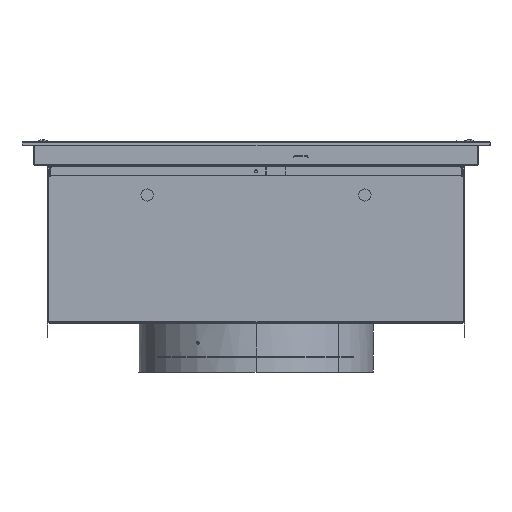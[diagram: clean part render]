
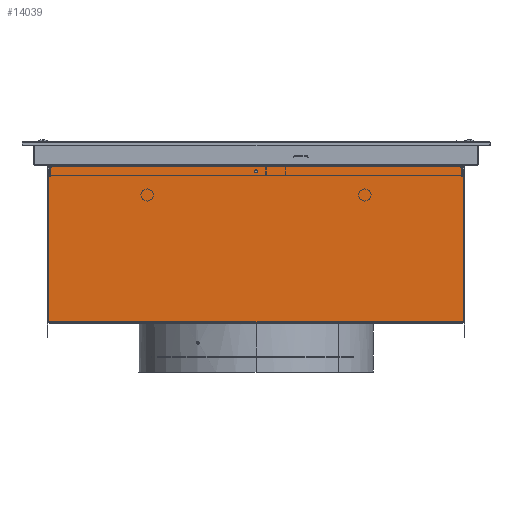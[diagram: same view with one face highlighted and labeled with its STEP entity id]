
A CAD part, left-side view. The second image highlights one B-rep face of the part: STEP entity #14039.
In plain terms, the highlighted planar face has unit normal (-1, 0, 0).
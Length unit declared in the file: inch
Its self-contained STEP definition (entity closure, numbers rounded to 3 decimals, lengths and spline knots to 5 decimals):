
#884 = ORIENTED_EDGE ( 'NONE', *, *, #9509, .F. ) ;
#1162 = VERTEX_POINT ( 'NONE', #25410 ) ;
#2142 = AXIS2_PLACEMENT_3D ( 'NONE', #48275, #64091, #14358 ) ;
#2422 = VERTEX_POINT ( 'NONE', #8867 ) ;
#3054 = DIRECTION ( 'NONE',  ( 0., 0.707, -0.707 ) ) ;
#3275 = AXIS2_PLACEMENT_3D ( 'NONE', #55266, #29981, #4939 ) ;
#3447 = DIRECTION ( 'NONE',  ( 0., -1., 0. ) ) ;
#4310 = ORIENTED_EDGE ( 'NONE', *, *, #59417, .T. ) ;
#4939 = DIRECTION ( 'NONE',  ( 0., 0., -1. ) ) ;
#5201 = LINE ( 'NONE', #30072, #12963 ) ;
#5771 = DIRECTION ( 'NONE',  ( 0., 0., -1. ) ) ;
#6034 = CARTESIAN_POINT ( 'NONE',  ( -16.56225, 0., -1.5046 ) ) ;
#6153 = VECTOR ( 'NONE', #3054, 39.37008 ) ;
#6363 = DIRECTION ( 'NONE',  ( 1., 0., 0. ) ) ;
#8368 = LINE ( 'NONE', #24201, #45682 ) ;
#8867 = CARTESIAN_POINT ( 'NONE',  ( -16.56225, 0.075, -1.5046 ) ) ;
#9509 = EDGE_CURVE ( 'NONE', #30579, #40540, #58033, .T. ) ;
#10127 = DIRECTION ( 'NONE',  ( 0., -1., 0. ) ) ;
#10158 = CARTESIAN_POINT ( 'NONE',  ( -16.56225, -10.52225, -1.45921 ) ) ;
#10202 = LINE ( 'NONE', #10528, #31449 ) ;
#10528 = CARTESIAN_POINT ( 'NONE',  ( -16.56225, 0.075, -1.5796 ) ) ;
#10697 = ORIENTED_EDGE ( 'NONE', *, *, #29318, .T. ) ;
#11109 = CARTESIAN_POINT ( 'NONE',  ( -16.56225, -10.52225, -9.137 ) ) ;
#11894 = VERTEX_POINT ( 'NONE', #21999 ) ;
#12147 = CARTESIAN_POINT ( 'NONE',  ( -16.56225, -0.075, -1.5046 ) ) ;
#12273 = ORIENTED_EDGE ( 'NONE', *, *, #52504, .T. ) ;
#12963 = VECTOR ( 'NONE', #10127, 39.37008 ) ;
#13168 = EDGE_CURVE ( 'NONE', #11894, #30579, #60365, .T. ) ;
#14039 = ADVANCED_FACE ( 'Face1', ( #28247, #63101 ), #33501, .F. ) ;
#14239 = EDGE_CURVE ( 'NONE', #47511, #20183, #63075, .T. ) ;
#14358 = DIRECTION ( 'NONE',  ( 0., 0., -1. ) ) ;
#14421 = CARTESIAN_POINT ( 'NONE',  ( -16.56225, 10.27664, -1.20739 ) ) ;
#15156 = ORIENTED_EDGE ( 'NONE', *, *, #14239, .T. ) ;
#15244 = CARTESIAN_POINT ( 'NONE',  ( -16.56225, 0.075, -1.5796 ) ) ;
#16103 = EDGE_CURVE ( 'NONE', #53984, #1162, #47270, .T. ) ;
#16481 = CARTESIAN_POINT ( 'NONE',  ( -16.56225, -0.075, -1.5796 ) ) ;
#16700 = ORIENTED_EDGE ( 'NONE', *, *, #45214, .F. ) ;
#17592 = DIRECTION ( 'NONE',  ( -1., 0., 0. ) ) ;
#18923 = CARTESIAN_POINT ( 'NONE',  ( -16.56225, 10.52225, -9.137 ) ) ;
#18926 = AXIS2_PLACEMENT_3D ( 'NONE', #21362, #26966, #40766 ) ;
#19048 = CARTESIAN_POINT ( 'NONE',  ( -16.56225, 10.51786, -1.44861 ) ) ;
#19914 = CARTESIAN_POINT ( 'NONE',  ( -16.56225, 10.52225, -1.45921 ) ) ;
#20183 = VERTEX_POINT ( 'NONE', #40208 ) ;
#20941 = EDGE_CURVE ( 'NONE', #45972, #2422, #47628, .T. ) ;
#21034 = LINE ( 'NONE', #11109, #53174 ) ;
#21362 = CARTESIAN_POINT ( 'NONE',  ( -16.56225, -10.26604, -1.218 ) ) ;
#21626 = CIRCLE ( 'NONE', #47857, 0.075 ) ;
#21999 = CARTESIAN_POINT ( 'NONE',  ( -16.56225, -10.52225, -9.137 ) ) ;
#22828 = DIRECTION ( 'NONE',  ( 0., 0., 1. ) ) ;
#24201 = CARTESIAN_POINT ( 'NONE',  ( -16.56225, 10.56225, -1.203 ) ) ;
#24534 = CARTESIAN_POINT ( 'NONE',  ( -16.56225, 10.56225, -9.137 ) ) ;
#24660 = CARTESIAN_POINT ( 'NONE',  ( -16.56225, -0.075, -1.5796 ) ) ;
#24873 = EDGE_CURVE ( 'NONE', #20183, #53984, #44509, .T. ) ;
#24875 = CIRCLE ( 'NONE', #63766, 0.113 ) ;
#25410 = CARTESIAN_POINT ( 'NONE',  ( -16.56225, -10.26604, -1.203 ) ) ;
#25434 = ORIENTED_EDGE ( 'NONE', *, *, #20941, .T. ) ;
#25598 = DIRECTION ( 'NONE',  ( -1., 0., 0. ) ) ;
#25923 = DIRECTION ( 'NONE',  ( 0., 0., -1. ) ) ;
#26589 = CARTESIAN_POINT ( 'NONE',  ( -16.56225, 10.50725, -1.45921 ) ) ;
#26648 = CARTESIAN_POINT ( 'NONE',  ( -16.56225, 0., -1.204 ) ) ;
#26731 = VERTEX_POINT ( 'NONE', #12147 ) ;
#26852 = VERTEX_POINT ( 'NONE', #36536 ) ;
#26966 = DIRECTION ( 'NONE',  ( -1., 0., 0. ) ) ;
#27159 = CARTESIAN_POINT ( 'NONE',  ( -16.56225, 10.52225, -9.137 ) ) ;
#27799 = ORIENTED_EDGE ( 'NONE', *, *, #64869, .T. ) ;
#28247 = FACE_BOUND ( 'NONE', #29776, .T. ) ;
#28786 = CARTESIAN_POINT ( 'NONE',  ( -16.56225, -10.52225, -1.453 ) ) ;
#29318 = EDGE_CURVE ( 'NONE', #37391, #63244, #24875, .T. ) ;
#29776 = EDGE_LOOP ( 'NONE', ( #25434, #46173, #27799, #44748 ) ) ;
#29981 = DIRECTION ( 'NONE',  ( 1., 0., 0. ) ) ;
#29995 = VECTOR ( 'NONE', #40107, 39.37008 ) ;
#30072 = CARTESIAN_POINT ( 'NONE',  ( -16.56225, 10.56225, -1.203 ) ) ;
#30579 = VERTEX_POINT ( 'NONE', #18923 ) ;
#31227 = DIRECTION ( 'NONE',  ( 0., 0., 1. ) ) ;
#31449 = VECTOR ( 'NONE', #46369, 39.37008 ) ;
#31603 = ORIENTED_EDGE ( 'NONE', *, *, #24873, .T. ) ;
#31608 = EDGE_CURVE ( 'NONE', #37391, #1162, #8368, .T. ) ;
#31844 = CARTESIAN_POINT ( 'NONE',  ( -16.56225, 10.26604, -1.218 ) ) ;
#32316 = CARTESIAN_POINT ( 'NONE',  ( -16.56225, 0.015, -1.203 ) ) ;
#32546 = CARTESIAN_POINT ( 'NONE',  ( -16.56225, 0.075, -1.5046 ) ) ;
#33348 = LINE ( 'NONE', #39250, #6153 ) ;
#33501 = PLANE ( 'NONE',  #2142 ) ;
#33773 = VECTOR ( 'NONE', #22828, 39.37008 ) ;
#34037 = DIRECTION ( 'NONE',  ( 0., 0.707, 0.707 ) ) ;
#34945 = EDGE_CURVE ( 'NONE', #45294, #44007, #33348, .T. ) ;
#35115 = EDGE_LOOP ( 'NONE', ( #49412, #10697, #37914, #16700, #45037, #54870, #4310, #884, #56964, #12273, #15156, #31603, #58864 ) ) ;
#36317 = DIRECTION ( 'NONE',  ( 0., 0., -1. ) ) ;
#36536 = CARTESIAN_POINT ( 'NONE',  ( -16.56225, 10.26604, -1.203 ) ) ;
#37221 = VECTOR ( 'NONE', #34037, 39.37008 ) ;
#37391 = VERTEX_POINT ( 'NONE', #49211 ) ;
#37914 = ORIENTED_EDGE ( 'NONE', *, *, #58817, .T. ) ;
#38298 = EDGE_CURVE ( 'NONE', #26852, #45294, #38564, .T. ) ;
#38564 = CIRCLE ( 'NONE', #46950, 0.015 ) ;
#39250 = CARTESIAN_POINT ( 'NONE',  ( -16.56225, 10.27225, -1.203 ) ) ;
#40095 = AXIS2_PLACEMENT_3D ( 'NONE', #26589, #25598, #25923 ) ;
#40107 = DIRECTION ( 'NONE',  ( 0., 0., -1. ) ) ;
#40208 = CARTESIAN_POINT ( 'NONE',  ( -16.56225, -10.51786, -1.44861 ) ) ;
#40540 = VERTEX_POINT ( 'NONE', #19914 ) ;
#40766 = DIRECTION ( 'NONE',  ( 0., 0., -1. ) ) ;
#41340 = DIRECTION ( 'NONE',  ( 0., 0., -1. ) ) ;
#42587 = EDGE_CURVE ( 'NONE', #62870, #45972, #10202, .T. ) ;
#43306 = VECTOR ( 'NONE', #54090, 39.37008 ) ;
#43332 = DIRECTION ( 'NONE',  ( 0., 0., 1. ) ) ;
#44007 = VERTEX_POINT ( 'NONE', #19048 ) ;
#44509 = LINE ( 'NONE', #28786, #37221 ) ;
#44748 = ORIENTED_EDGE ( 'NONE', *, *, #42587, .T. ) ;
#44944 = DIRECTION ( 'NONE',  ( 1., 0., 0. ) ) ;
#45037 = ORIENTED_EDGE ( 'NONE', *, *, #38298, .T. ) ;
#45214 = EDGE_CURVE ( 'NONE', #26852, #58437, #5201, .T. ) ;
#45294 = VERTEX_POINT ( 'NONE', #14421 ) ;
#45682 = VECTOR ( 'NONE', #3447, 39.37008 ) ;
#45972 = VERTEX_POINT ( 'NONE', #15244 ) ;
#46173 = ORIENTED_EDGE ( 'NONE', *, *, #47829, .T. ) ;
#46369 = DIRECTION ( 'NONE',  ( 0., 1., 0. ) ) ;
#46612 = DIRECTION ( 'NONE',  ( -1., 0., 0. ) ) ;
#46950 = AXIS2_PLACEMENT_3D ( 'NONE', #31844, #46612, #41340 ) ;
#47270 = CIRCLE ( 'NONE', #18926, 0.015 ) ;
#47511 = VERTEX_POINT ( 'NONE', #10158 ) ;
#47628 = LINE ( 'NONE', #32546, #62947 ) ;
#47829 = EDGE_CURVE ( 'NONE', #2422, #26731, #21626, .T. ) ;
#47857 = AXIS2_PLACEMENT_3D ( 'NONE', #6034, #6363, #36317 ) ;
#48275 = CARTESIAN_POINT ( 'NONE',  ( -16.56225, 0., 0. ) ) ;
#48499 = CARTESIAN_POINT ( 'NONE',  ( -16.56225, -10.27664, -1.20739 ) ) ;
#49211 = CARTESIAN_POINT ( 'NONE',  ( -16.56225, -0.015, -1.203 ) ) ;
#49412 = ORIENTED_EDGE ( 'NONE', *, *, #31608, .F. ) ;
#50605 = CIRCLE ( 'NONE', #40095, 0.015 ) ;
#50850 = CARTESIAN_POINT ( 'NONE',  ( -16.56225, 0., -1.091 ) ) ;
#52504 = EDGE_CURVE ( 'NONE', #11894, #47511, #21034, .T. ) ;
#52617 = CIRCLE ( 'NONE', #3275, 0.113 ) ;
#52790 = CARTESIAN_POINT ( 'NONE',  ( -16.56225, -10.50725, -1.45921 ) ) ;
#53174 = VECTOR ( 'NONE', #31227, 39.37008 ) ;
#53984 = VERTEX_POINT ( 'NONE', #48499 ) ;
#54090 = DIRECTION ( 'NONE',  ( 0., 1., 0. ) ) ;
#54237 = LINE ( 'NONE', #24660, #29995 ) ;
#54870 = ORIENTED_EDGE ( 'NONE', *, *, #34945, .T. ) ;
#55266 = CARTESIAN_POINT ( 'NONE',  ( -16.56225, 0., -1.091 ) ) ;
#56964 = ORIENTED_EDGE ( 'NONE', *, *, #13168, .F. ) ;
#58033 = LINE ( 'NONE', #27159, #33773 ) ;
#58437 = VERTEX_POINT ( 'NONE', #32316 ) ;
#58817 = EDGE_CURVE ( 'NONE', #63244, #58437, #52617, .T. ) ;
#58864 = ORIENTED_EDGE ( 'NONE', *, *, #16103, .T. ) ;
#59417 = EDGE_CURVE ( 'NONE', #44007, #40540, #50605, .T. ) ;
#60365 = LINE ( 'NONE', #24534, #43306 ) ;
#61728 = DIRECTION ( 'NONE',  ( 0., 0., -1. ) ) ;
#62054 = AXIS2_PLACEMENT_3D ( 'NONE', #52790, #17592, #61728 ) ;
#62870 = VERTEX_POINT ( 'NONE', #16481 ) ;
#62947 = VECTOR ( 'NONE', #43332, 39.37008 ) ;
#63075 = CIRCLE ( 'NONE', #62054, 0.015 ) ;
#63101 = FACE_OUTER_BOUND ( 'NONE', #35115, .T. ) ;
#63244 = VERTEX_POINT ( 'NONE', #26648 ) ;
#63766 = AXIS2_PLACEMENT_3D ( 'NONE', #50850, #44944, #5771 ) ;
#64091 = DIRECTION ( 'NONE',  ( 1., 0., 0. ) ) ;
#64869 = EDGE_CURVE ( 'NONE', #26731, #62870, #54237, .T. ) ;
